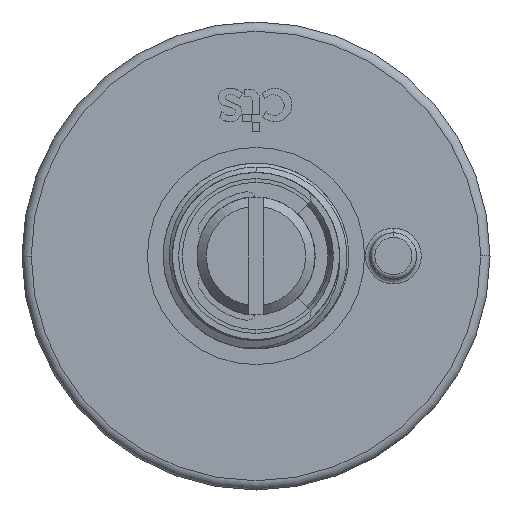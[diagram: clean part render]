
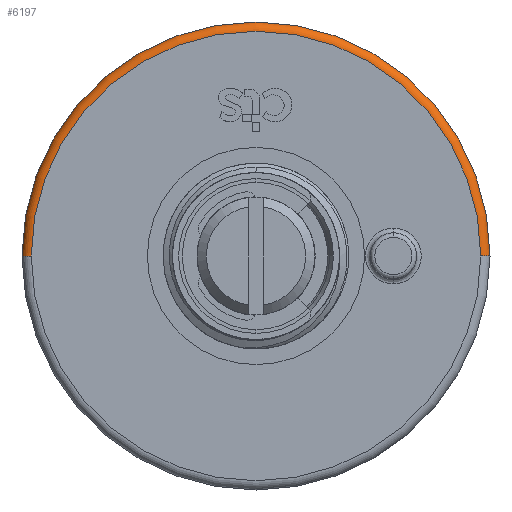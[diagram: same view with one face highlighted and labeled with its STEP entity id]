
A CAD part, front view. The second image highlights one B-rep face of the part: STEP entity #6197.
In plain terms, the highlighted toroidal (fillet/blend) face has major radius 12.101 mm and minor radius 0.5 mm.
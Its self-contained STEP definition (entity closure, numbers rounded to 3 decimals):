
#1064 = CARTESIAN_POINT ( 'NONE',  ( -12.101, 0.5, 0. ) ) ;
#1290 = DIRECTION ( 'NONE',  ( -1., 0., 0. ) ) ;
#1359 = CIRCLE ( 'NONE', #8611, 12.601 ) ;
#1839 = EDGE_CURVE ( 'NONE', #10189, #9899, #2857, .T. ) ;
#2712 = AXIS2_PLACEMENT_3D ( 'NONE', #11455, #10031, #15679 ) ;
#2836 = CIRCLE ( 'NONE', #10655, 0.5 ) ;
#2857 = CIRCLE ( 'NONE', #12607, 0.5 ) ;
#3403 = DIRECTION ( 'NONE',  ( 0., 1., 0. ) ) ;
#3635 = ORIENTED_EDGE ( 'NONE', *, *, #6932, .T. ) ;
#4595 = CARTESIAN_POINT ( 'NONE',  ( -12.601, 0.504, 0. ) ) ;
#5063 = VERTEX_POINT ( 'NONE', #15523 ) ;
#5075 = CARTESIAN_POINT ( 'NONE',  ( 12.601, 0.504, 0. ) ) ;
#6197 = ADVANCED_FACE ( 'NONE', ( #11375 ), #16331, .T. ) ;
#6324 = ORIENTED_EDGE ( 'NONE', *, *, #16319, .T. ) ;
#6342 = CARTESIAN_POINT ( 'NONE',  ( 0., 0.5, 0. ) ) ;
#6602 = CIRCLE ( 'NONE', #2712, 12.101 ) ;
#6932 = EDGE_CURVE ( 'NONE', #10189, #5063, #6602, .T. ) ;
#7199 = DIRECTION ( 'NONE',  ( 1., 0., 0. ) ) ;
#7729 = AXIS2_PLACEMENT_3D ( 'NONE', #6342, #17063, #1290 ) ;
#8037 = EDGE_CURVE ( 'NONE', #9899, #13486, #1359, .T. ) ;
#8611 = AXIS2_PLACEMENT_3D ( 'NONE', #8736, #3403, #11201 ) ;
#8736 = CARTESIAN_POINT ( 'NONE',  ( 0., 0.504, 0. ) ) ;
#8815 = EDGE_LOOP ( 'NONE', ( #3635, #6324, #10513, #9905 ) ) ;
#8911 = DIRECTION ( 'NONE',  ( 0., 0., -1. ) ) ;
#9899 = VERTEX_POINT ( 'NONE', #4595 ) ;
#9905 = ORIENTED_EDGE ( 'NONE', *, *, #1839, .F. ) ;
#10031 = DIRECTION ( 'NONE',  ( 0., 1., 0. ) ) ;
#10189 = VERTEX_POINT ( 'NONE', #11938 ) ;
#10513 = ORIENTED_EDGE ( 'NONE', *, *, #8037, .F. ) ;
#10655 = AXIS2_PLACEMENT_3D ( 'NONE', #12613, #15293, #7199 ) ;
#11201 = DIRECTION ( 'NONE',  ( -1., 0., 0. ) ) ;
#11375 = FACE_OUTER_BOUND ( 'NONE', #8815, .T. ) ;
#11455 = CARTESIAN_POINT ( 'NONE',  ( 0., 0., 0. ) ) ;
#11938 = CARTESIAN_POINT ( 'NONE',  ( -12.101, 0., 0. ) ) ;
#12607 = AXIS2_PLACEMENT_3D ( 'NONE', #1064, #8911, #13007 ) ;
#12613 = CARTESIAN_POINT ( 'NONE',  ( 12.101, 0.5, 0. ) ) ;
#13007 = DIRECTION ( 'NONE',  ( -1., 0., 0. ) ) ;
#13486 = VERTEX_POINT ( 'NONE', #5075 ) ;
#15293 = DIRECTION ( 'NONE',  ( 0., 0., 1. ) ) ;
#15523 = CARTESIAN_POINT ( 'NONE',  ( 12.101, 0., 0. ) ) ;
#15679 = DIRECTION ( 'NONE',  ( -1., 0., 0. ) ) ;
#16319 = EDGE_CURVE ( 'NONE', #5063, #13486, #2836, .T. ) ;
#16331 = TOROIDAL_SURFACE ( 'NONE', #7729, 12.101, 0.5 ) ;
#17063 = DIRECTION ( 'NONE',  ( 0., 1., 0. ) ) ;
